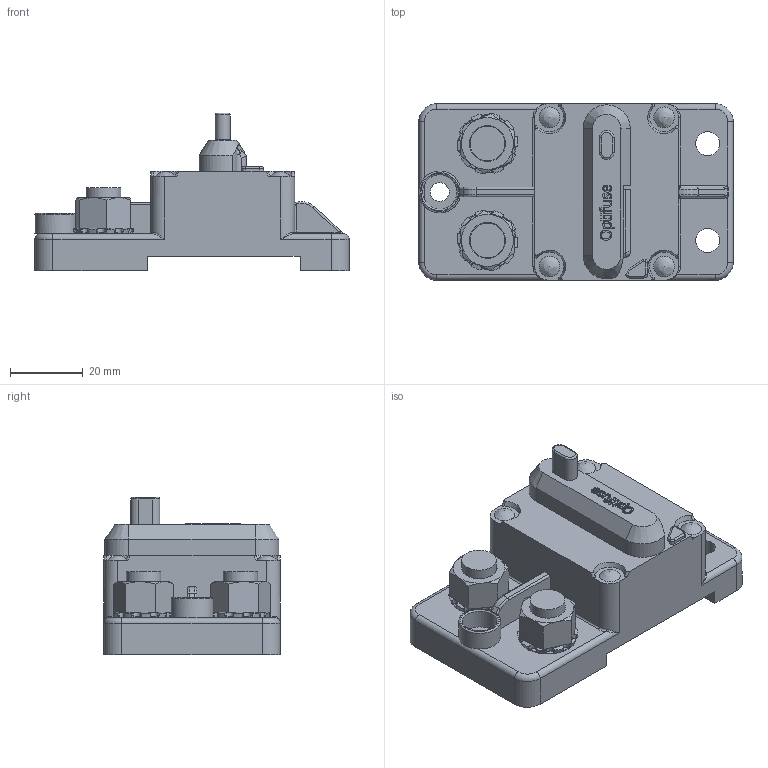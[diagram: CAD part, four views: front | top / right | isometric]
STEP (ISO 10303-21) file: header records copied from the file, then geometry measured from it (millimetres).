
FILE_DESCRIPTION(/* description */ (''),/* implementation_level */ '2;1');
FILE_NAME(/* name */ 'C:\Users\Hani\Desktop\work\553\553 Circuit Breaker.stp',/* time_stamp */ '2022-02-06T12:22:14-08:00',/* author */ ('Hani'),/* organization */ (''),/* preprocessor_version */ 'ST-DEVELOPER v17',/* originating_system */ 'Autodesk Inventor 2019',/* authorisation */ '');
FILE_SCHEMA (('AUTOMOTIVE_DESIGN { 1 0 10303 214 3 1 1 }'));
Products named in the file (7): 253 Circuit Breaker; Circuit_Breaker series 153; washer; bolt; .375-16 HEX NUT WITH TOOTH WASHER; washer_MIR; .375-16 HEX NUT WITH TOOTH WASHER_MIR
Assembly tree (9 placements, depth 2):
  253 Circuit Breaker
    Circuit_Breaker series 153
    washer
    bolt  x4
    .375-16 HEX NUT WITH TOOTH WASHER
    washer_MIR
    .375-16 HEX NUT WITH TOOTH WASHER_MIR
Bounding box: 86.35 x 48.5 x 43.3 mm (x, y, z)
Volume: 72908.5 mm3; surface area: 22534 mm2
Topology: 11 solids, 11 shells, 651 faces, 1693 edges, 1076 vertices
Faces by surface type: plane 239, cylinder 166, bspline 141, cone 80, torus 22, sphere 3
Full cylindrical faces by diameter (mm): 3.429 x4, 3.5 x4, 5.2 x1, 6.6 x2, 7.806 x8, 9.5 x1, 9.525 x16, 9.652 x2, 12.706 x2, 15.494 x2, 15.875 x2
Entity records: 25694 total; most frequent: CARTESIAN_POINT 10650, ORIENTED_EDGE 3330, DIRECTION 2750, EDGE_CURVE 1665, VERTEX_POINT 1061, AXIS2_PLACEMENT_3D 1029, LINE 692, VECTOR 692
